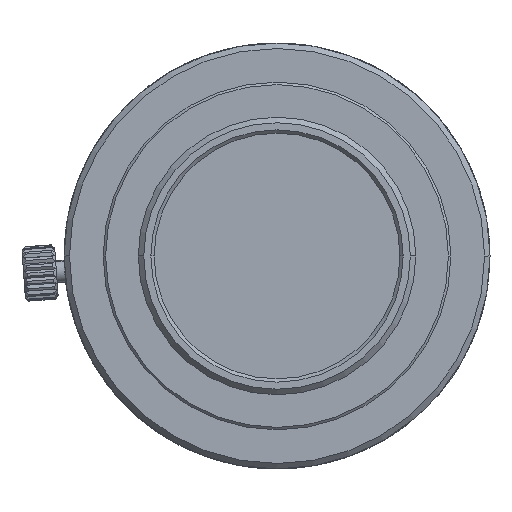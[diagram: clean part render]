
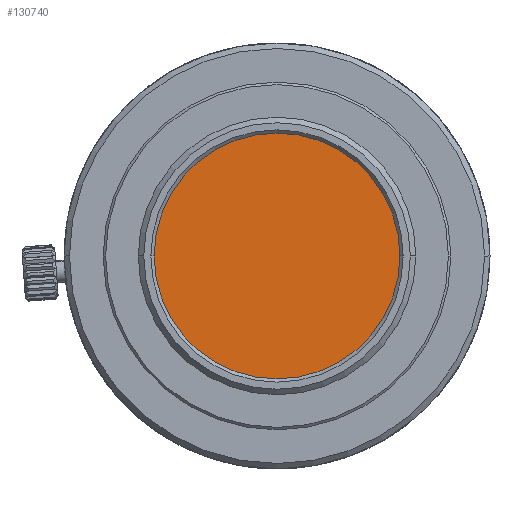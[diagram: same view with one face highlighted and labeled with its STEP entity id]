
A CAD part, left-side view. The second image highlights one B-rep face of the part: STEP entity #130740.
In plain terms, the highlighted planar face has unit normal (-1, 0, 0) as drawn and (-0.919, 0, -0.394) by its records, which use the part's own axes.
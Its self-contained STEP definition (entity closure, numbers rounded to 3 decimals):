
#130410=CARTESIAN_POINT('',(-51.425,18.61,
36.569));
#130420=VERTEX_POINT('',#130410);
#130500=CARTESIAN_POINT('',(-50.793,-3.832,
35.093));
#130510=VERTEX_POINT('',#130500);
#130540=CARTESIAN_POINT('',(-51.109,7.389,
35.831));
#130550=DIRECTION('',(0.919,0.,
0.394));
#130560=DIRECTION('',(0.028,-0.997,
-0.066));
#130570=AXIS2_PLACEMENT_3D('',#130540,#130550,#130560);
#130580=CIRCLE('',#130570,11.25);
#130590=EDGE_CURVE('',#130420,#130510,#130580,.T.);
#130640=CARTESIAN_POINT('',(-50.951,1.778,
35.462));
#130650=DIRECTION('',(0.919,0.,
0.394));
#130660=DIRECTION('',(-0.028,0.997,
0.066));
#130670=AXIS2_PLACEMENT_3D('',#130640,#130650,#130660);
#130680=PLANE('',#130670);
#130690=EDGE_CURVE('',#130510,#130420,#130580,.T.);
#130700=ORIENTED_EDGE('',*,*,#130690,.F.);
#130710=ORIENTED_EDGE('',*,*,#130590,.F.);
#130720=EDGE_LOOP('',(#130710,#130700));
#130730=FACE_OUTER_BOUND('',#130720,.T.);
#130740=ADVANCED_FACE('',(#130730),#130680,.F.);
